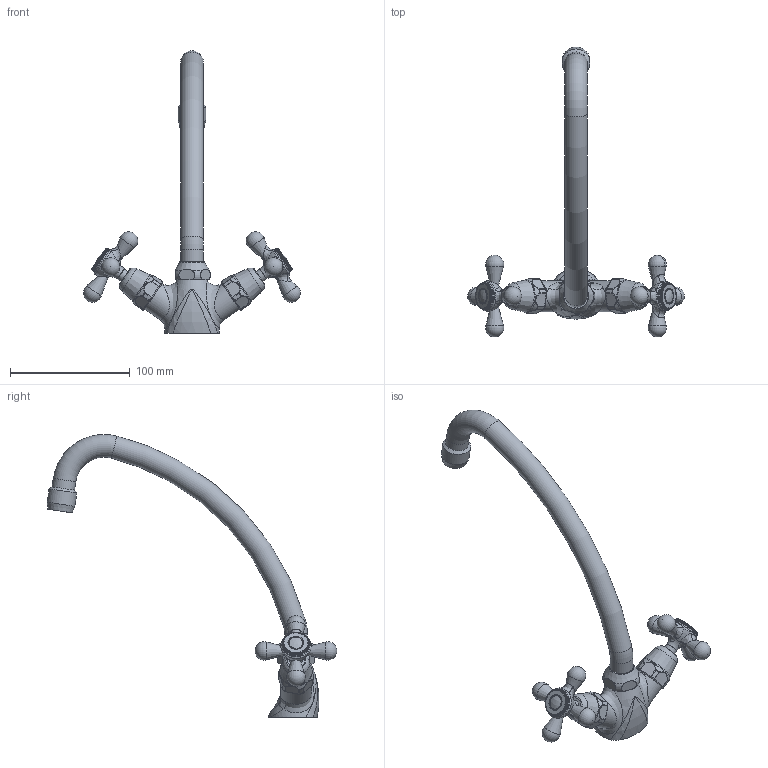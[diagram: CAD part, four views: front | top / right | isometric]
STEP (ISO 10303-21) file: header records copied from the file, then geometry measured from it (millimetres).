
FILE_DESCRIPTION(('STEP AP242'), '1');
FILE_NAME('17CR570KM', '', ('UNSPECIFIED'), ('UNSPECIFIED'), 'ASCON STEP Converter 1.6', 'ASCON Math Kernel', '');
FILE_SCHEMA(('AP242_MANAGED_MODEL_BASED_3D_ENGINEERING_MIM_LF { 1 0 10303 442 1 1 4 }'));
Length unit declared in the file: millimetre
Assembly tree (2 placements, depth 2):
  (unnamed)
    (unnamed)
    (unnamed)
Bounding box: 181.29 x 241.93 x 236.23 mm (x, y, z)
Volume: 233777.9 mm3; surface area: 47377.4 mm2
Topology: 2 solids, 2 shells, 4978 faces, 11643 edges, 6665 vertices
Faces by surface type: bspline 2517, cylinder 1397, torus 515, plane 484, sphere 50, cone 15
Full cylindrical faces by diameter (mm): 10.197 x2, 12.398 x2, 18 x1, 19 x2, 23.047 x2, 23.346 x1, 25.857 x2
Entity records: 265979 total; most frequent: CARTESIAN_POINT 136759, ORIENTED_EDGE 23114, DIRECTION 11956, EDGE_CURVE 11557, B_SPLINE_CURVE_WITH_KNOTS 7109, VERTEX_POINT 6646, AXIS2_PLACEMENT_3D 5045, EDGE_LOOP 5039
